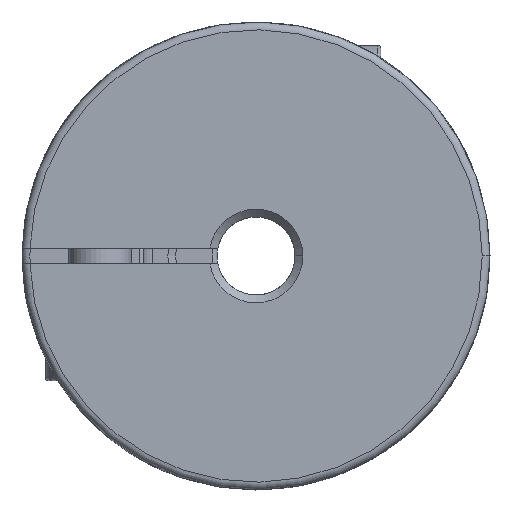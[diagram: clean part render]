
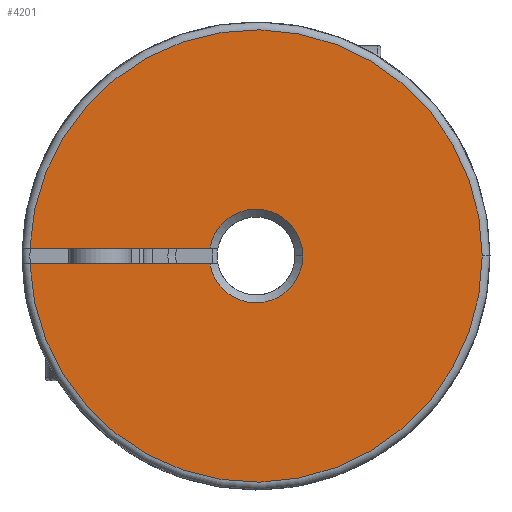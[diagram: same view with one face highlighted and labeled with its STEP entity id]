
A CAD part, front view. The second image highlights one B-rep face of the part: STEP entity #4201.
In plain terms, the highlighted planar face has unit normal (0, -1, 0) as drawn and (-1, 0, 0) by its records, which use the part's own axes.
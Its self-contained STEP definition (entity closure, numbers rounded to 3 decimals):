
#28 = PLANE ( 'NONE',  #757 ) ;
#225 = EDGE_LOOP ( 'NONE', ( #3158, #1767, #7221, #4573, #5436, #4335 ) ) ;
#229 = DIRECTION ( 'NONE',  ( -1., 0., 0. ) ) ;
#302 = CARTESIAN_POINT ( 'NONE',  ( -12.5, 14.491, 0.5 ) ) ;
#558 = CIRCLE ( 'NONE', #1647, 14.5 ) ;
#581 = CIRCLE ( 'NONE', #2882, 14.5 ) ;
#741 = VERTEX_POINT ( 'NONE', #7397 ) ;
#757 = AXIS2_PLACEMENT_3D ( 'NONE', #1249, #1930, #2608 ) ;
#882 = DIRECTION ( 'NONE',  ( -1., 0., 0. ) ) ;
#1089 = VECTOR ( 'NONE', #1644, 1000. ) ;
#1249 = CARTESIAN_POINT ( 'NONE',  ( -12.5, 14.5, 0. ) ) ;
#1644 = DIRECTION ( 'NONE',  ( 0., 1., 0. ) ) ;
#1647 = AXIS2_PLACEMENT_3D ( 'NONE', #2953, #5638, #2989 ) ;
#1699 = EDGE_CURVE ( 'NONE', #2595, #7109, #6989, .T. ) ;
#1767 = ORIENTED_EDGE ( 'NONE', *, *, #7723, .T. ) ;
#1930 = DIRECTION ( 'NONE',  ( 1., 0., 0. ) ) ;
#2222 = EDGE_CURVE ( 'NONE', #5102, #7109, #6056, .T. ) ;
#2325 = CARTESIAN_POINT ( 'NONE',  ( -12.5, 0., 0. ) ) ;
#2382 = VERTEX_POINT ( 'NONE', #5213 ) ;
#2509 = AXIS2_PLACEMENT_3D ( 'NONE', #6638, #229, #6511 ) ;
#2595 = VERTEX_POINT ( 'NONE', #6497 ) ;
#2608 = DIRECTION ( 'NONE',  ( 0., 1., 0. ) ) ;
#2843 = VECTOR ( 'NONE', #5979, 1000. ) ;
#2882 = AXIS2_PLACEMENT_3D ( 'NONE', #2325, #882, #2957 ) ;
#2953 = CARTESIAN_POINT ( 'NONE',  ( -12.5, 0., 0. ) ) ;
#2957 = DIRECTION ( 'NONE',  ( 0., -1., 0. ) ) ;
#2989 = DIRECTION ( 'NONE',  ( 0., -1., 0. ) ) ;
#3158 = ORIENTED_EDGE ( 'NONE', *, *, #3345, .T. ) ;
#3345 = EDGE_CURVE ( 'NONE', #741, #2382, #558, .T. ) ;
#3534 = DIRECTION ( 'NONE',  ( 0., -1., 0. ) ) ;
#3961 = EDGE_CURVE ( 'NONE', #5290, #2595, #4654, .T. ) ;
#4038 = LINE ( 'NONE', #5978, #1089 ) ;
#4168 = AXIS2_PLACEMENT_3D ( 'NONE', #7525, #8156, #3534 ) ;
#4201 = ADVANCED_FACE ( 'NONE', ( #7737 ), #28, .F. ) ;
#4335 = ORIENTED_EDGE ( 'NONE', *, *, #8124, .T. ) ;
#4573 = ORIENTED_EDGE ( 'NONE', *, *, #1699, .F. ) ;
#4654 = CIRCLE ( 'NONE', #2509, 3. ) ;
#5102 = VERTEX_POINT ( 'NONE', #302 ) ;
#5213 = CARTESIAN_POINT ( 'NONE',  ( -12.5, -14.5, 0. ) ) ;
#5290 = VERTEX_POINT ( 'NONE', #5647 ) ;
#5309 = CARTESIAN_POINT ( 'NONE',  ( -12.5, 14.5, 0.5 ) ) ;
#5436 = ORIENTED_EDGE ( 'NONE', *, *, #3961, .F. ) ;
#5638 = DIRECTION ( 'NONE',  ( -1., 0., 0. ) ) ;
#5647 = CARTESIAN_POINT ( 'NONE',  ( -12.5, 2.958, -0.5 ) ) ;
#5978 = CARTESIAN_POINT ( 'NONE',  ( -12.5, 14.5, -0.5 ) ) ;
#5979 = DIRECTION ( 'NONE',  ( 0., -1., 0. ) ) ;
#6056 = LINE ( 'NONE', #5309, #2843 ) ;
#6342 = CARTESIAN_POINT ( 'NONE',  ( -12.5, 2.958, 0.5 ) ) ;
#6497 = CARTESIAN_POINT ( 'NONE',  ( -12.5, -3., 0. ) ) ;
#6511 = DIRECTION ( 'NONE',  ( 0., -1., 0. ) ) ;
#6638 = CARTESIAN_POINT ( 'NONE',  ( -12.5, 0., 0. ) ) ;
#6989 = CIRCLE ( 'NONE', #4168, 3. ) ;
#7109 = VERTEX_POINT ( 'NONE', #6342 ) ;
#7221 = ORIENTED_EDGE ( 'NONE', *, *, #2222, .T. ) ;
#7397 = CARTESIAN_POINT ( 'NONE',  ( -12.5, 14.491, -0.5 ) ) ;
#7525 = CARTESIAN_POINT ( 'NONE',  ( -12.5, 0., 0. ) ) ;
#7723 = EDGE_CURVE ( 'NONE', #2382, #5102, #581, .T. ) ;
#7737 = FACE_OUTER_BOUND ( 'NONE', #225, .T. ) ;
#8124 = EDGE_CURVE ( 'NONE', #5290, #741, #4038, .T. ) ;
#8156 = DIRECTION ( 'NONE',  ( -1., 0., 0. ) ) ;
